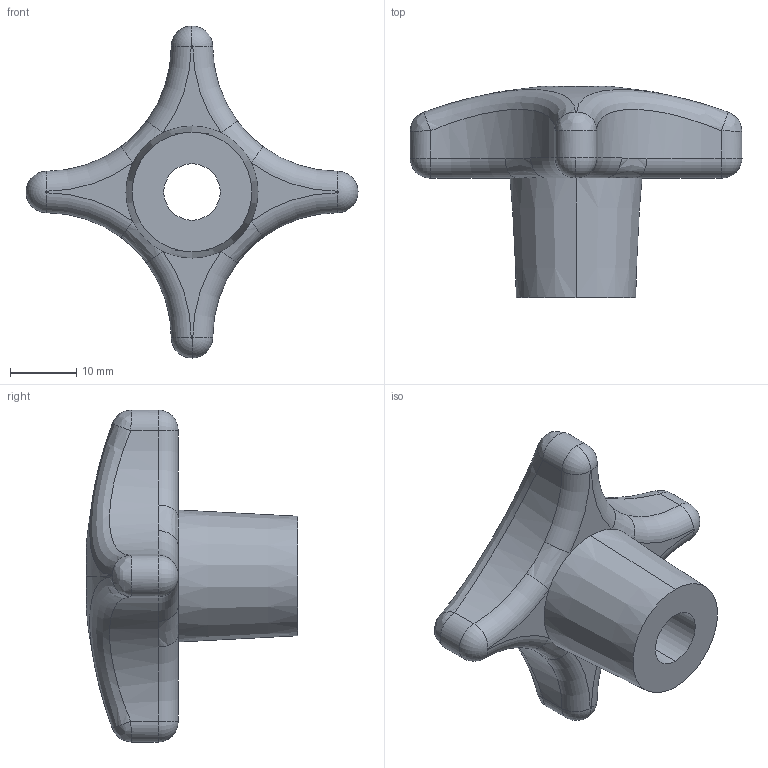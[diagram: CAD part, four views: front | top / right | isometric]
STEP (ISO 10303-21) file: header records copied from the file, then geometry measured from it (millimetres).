
FILE_DESCRIPTION (( 'STEP AP203' ), '1' );
FILE_NAME ('7000.W350.step', '2010-01-29T17:37:41', ( 'Wixroyd' ), ( 'Wixroyd' ), 'SwSTEP 2.0', 'SolidWorks 2009', '' );
FILE_SCHEMA (( 'CONFIG_CONTROL_DESIGN' ));
Length unit declared in the file: millimetre
Products named in the file (1): 7000.W350
Bounding box: 50 x 31.79 x 50 mm (x, y, z)
Volume: 13285.3 mm3; surface area: 5026 mm2
Topology: 1 solids, 1 shells, 49 faces, 116 edges, 69 vertices
Faces by surface type: torus 14, cylinder 13, bspline 12, plane 6, cone 2, sphere 2
Entity records: 7570 total; most frequent: CARTESIAN_POINT 6378, DIRECTION 247, ORIENTED_EDGE 232, EDGE_CURVE 116, AXIS2_PLACEMENT_3D 116, CIRCLE 78, VERTEX_POINT 69, EDGE_LOOP 51
